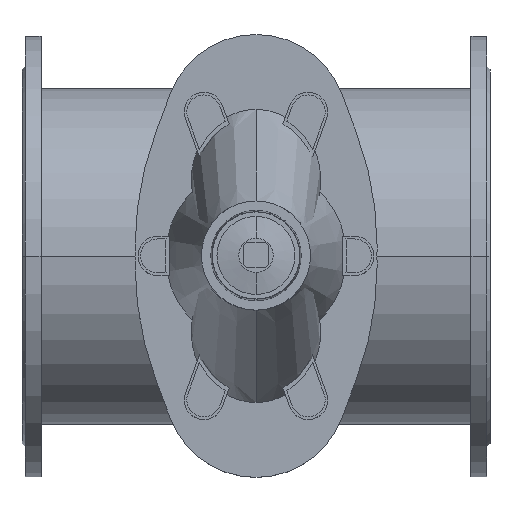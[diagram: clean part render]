
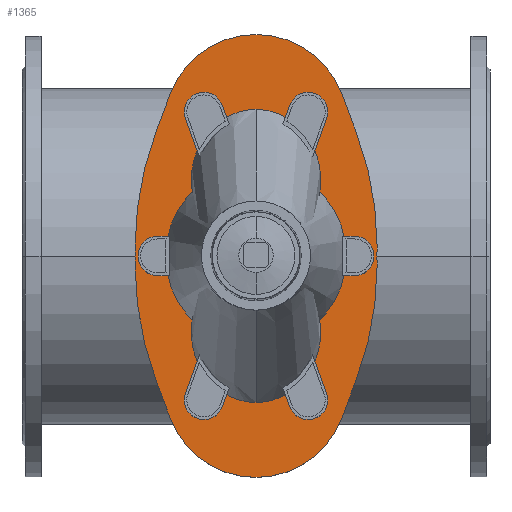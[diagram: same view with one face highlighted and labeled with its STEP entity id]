
A CAD part, top view. The second image highlights one B-rep face of the part: STEP entity #1365.
In plain terms, the highlighted planar face has unit normal (0, 0, 1).
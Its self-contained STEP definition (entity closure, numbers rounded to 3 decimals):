
#1365=ADVANCED_FACE('',(#2849),#2850,.T.);
#2849=FACE_OUTER_BOUND('',#4836,.T.);
#2850=PLANE('',#4837);
#4836=EDGE_LOOP('',(#7470,#7471,#7472,#7473,#7474,#7475,#7476,#7477,#7478,#7479,#7480,#7481,#7482,#7483));
#4837=AXIS2_PLACEMENT_3D('',#7484,#7485,#7486);
#7470=ORIENTED_EDGE('',*,*,#11487,.F.);
#7471=ORIENTED_EDGE('',*,*,#11488,.F.);
#7472=ORIENTED_EDGE('',*,*,#11489,.F.);
#7473=ORIENTED_EDGE('',*,*,#11490,.F.);
#7474=ORIENTED_EDGE('',*,*,#11491,.F.);
#7475=ORIENTED_EDGE('',*,*,#10931,.F.);
#7476=ORIENTED_EDGE('',*,*,#10945,.F.);
#7477=ORIENTED_EDGE('',*,*,#11324,.F.);
#7478=ORIENTED_EDGE('',*,*,#11492,.F.);
#7479=ORIENTED_EDGE('',*,*,#11493,.F.);
#7480=ORIENTED_EDGE('',*,*,#11494,.F.);
#7481=ORIENTED_EDGE('',*,*,#11495,.F.);
#7482=ORIENTED_EDGE('',*,*,#11496,.F.);
#7483=ORIENTED_EDGE('',*,*,#11480,.F.);
#7484=CARTESIAN_POINT('',(300.078,0.,504.0));
#7485=DIRECTION('',(0.0,0.0,1.0));
#7486=DIRECTION('',(1.0,0.0,0.0));
#10931=EDGE_CURVE('',#12953,#12955,#12956,.T.);
#10945=EDGE_CURVE('',#12975,#12953,#12977,.T.);
#11324=EDGE_CURVE('',#13615,#12975,#13616,.T.);
#11480=EDGE_CURVE('',#13846,#13844,#13848,.T.);
#11487=EDGE_CURVE('',#13859,#13846,#13860,.T.);
#11488=EDGE_CURVE('',#13861,#13859,#13862,.T.);
#11489=EDGE_CURVE('',#13863,#13861,#13864,.T.);
#11490=EDGE_CURVE('',#13865,#13863,#13866,.T.);
#11491=EDGE_CURVE('',#12955,#13865,#13867,.T.);
#11492=EDGE_CURVE('',#13868,#13615,#13869,.T.);
#11493=EDGE_CURVE('',#13870,#13868,#13871,.T.);
#11494=EDGE_CURVE('',#13872,#13870,#13873,.T.);
#11495=EDGE_CURVE('',#13874,#13872,#13875,.T.);
#11496=EDGE_CURVE('',#13844,#13874,#13876,.T.);
#12953=VERTEX_POINT('',#15698);
#12955=VERTEX_POINT('',#15701);
#12956=CIRCLE('',#15702,408.709);
#12975=VERTEX_POINT('',#15727);
#12977=CIRCLE('',#15730,408.709);
#13615=VERTEX_POINT('',#16547);
#13616=LINE('',#16548,#16549);
#13844=VERTEX_POINT('',#16836);
#13846=VERTEX_POINT('',#16839);
#13848=CIRCLE('',#16842,427.473);
#13859=VERTEX_POINT('',#16857);
#13860=LINE('',#16858,#16859);
#13861=VERTEX_POINT('',#16860);
#13862=CIRCLE('',#16861,117.466);
#13863=VERTEX_POINT('',#16862);
#13864=LINE('',#16863,#16864);
#13865=VERTEX_POINT('',#16865);
#13866=CIRCLE('',#16866,408.709);
#13867=CIRCLE('',#16867,408.709);
#13868=VERTEX_POINT('',#16868);
#13869=CIRCLE('',#16869,117.466);
#13870=VERTEX_POINT('',#16870);
#13871=LINE('',#16871,#16872);
#13872=VERTEX_POINT('',#16873);
#13873=CIRCLE('',#16874,427.473);
#13874=VERTEX_POINT('',#16875);
#13875=CIRCLE('',#16876,427.473);
#13876=CIRCLE('',#16877,427.473);
#15698=CARTESIAN_POINT('',(455.216,13.287,504.0));
#15701=CARTESIAN_POINT('',(455.,0.,504.0));
#15702=AXIS2_PLACEMENT_3D('',#18893,#18894,#18895);
#15727=CARTESIAN_POINT('',(428.882,157.621,504.0));
#15730=AXIS2_PLACEMENT_3D('',#18909,#18910,#18911);
#16547=CARTESIAN_POINT('',(409.91,207.883,504.0));
#16548=CARTESIAN_POINT('',(428.882,157.621,504.0));
#16549=VECTOR('',#19451,1.0);
#16836=CARTESIAN_POINT('',(144.881,-10.079,504.0));
#16839=CARTESIAN_POINT('',(172.378,-160.917,504.0));
#16842=AXIS2_PLACEMENT_3D('',#19684,#19685,#19686);
#16857=CARTESIAN_POINT('',(190.09,-207.883,504.0));
#16858=CARTESIAN_POINT('',(172.378,-160.917,504.0));
#16859=VECTOR('',#19691,1.0);
#16860=CARTESIAN_POINT('',(409.91,-207.883,504.0));
#16861=AXIS2_PLACEMENT_3D('',#19692,#19693,#19694);
#16862=CARTESIAN_POINT('',(428.882,-157.621,504.0));
#16863=CARTESIAN_POINT('',(409.91,-207.883,504.0));
#16864=VECTOR('',#19695,1.0);
#16865=CARTESIAN_POINT('',(455.216,-13.287,504.0));
#16866=AXIS2_PLACEMENT_3D('',#19696,#19697,#19698);
#16867=AXIS2_PLACEMENT_3D('',#19699,#19700,#19701);
#16868=CARTESIAN_POINT('',(190.09,207.883,504.0));
#16869=AXIS2_PLACEMENT_3D('',#19702,#19703,#19704);
#16870=CARTESIAN_POINT('',(172.378,160.917,504.0));
#16871=CARTESIAN_POINT('',(190.09,207.883,504.0));
#16872=VECTOR('',#19705,1.0);
#16873=CARTESIAN_POINT('',(144.881,10.079,504.0));
#16874=AXIS2_PLACEMENT_3D('',#19706,#19707,#19708);
#16875=CARTESIAN_POINT('',(145.,0.,504.0));
#16876=AXIS2_PLACEMENT_3D('',#19709,#19710,#19711);
#16877=AXIS2_PLACEMENT_3D('',#19712,#19713,#19714);
#18893=CARTESIAN_POINT('',(46.507,13.287,504.0));
#18894=DIRECTION('',(0.0,0.0,-1.0));
#18895=DIRECTION('',(1.0,0.0,0.0));
#18909=CARTESIAN_POINT('',(46.507,13.287,504.0));
#18910=DIRECTION('',(0.0,0.0,-1.0));
#18911=DIRECTION('',(1.0,0.0,0.0));
#19451=DIRECTION('',(0.353,-0.936,0.0));
#19684=CARTESIAN_POINT('',(572.355,-10.079,504.0));
#19685=DIRECTION('',(0.0,0.0,-1.0));
#19686=DIRECTION('',(1.0,0.0,0.0));
#19691=DIRECTION('',(-0.353,0.936,0.0));
#19692=CARTESIAN_POINT('',(300.,-166.434,504.0));
#19693=DIRECTION('',(0.0,0.0,-1.0));
#19694=DIRECTION('',(1.0,0.0,0.0));
#19695=DIRECTION('',(-0.353,-0.936,-0.0));
#19696=CARTESIAN_POINT('',(46.507,-13.287,504.0));
#19697=DIRECTION('',(0.0,0.0,-1.0));
#19698=DIRECTION('',(1.0,0.0,0.0));
#19699=CARTESIAN_POINT('',(46.507,-13.287,504.0));
#19700=DIRECTION('',(0.0,0.0,-1.0));
#19701=DIRECTION('',(1.0,0.0,0.0));
#19702=CARTESIAN_POINT('',(300.,166.434,504.0));
#19703=DIRECTION('',(0.0,0.0,-1.0));
#19704=DIRECTION('',(1.0,0.0,0.0));
#19705=DIRECTION('',(0.353,0.936,0.0));
#19706=CARTESIAN_POINT('',(572.355,10.079,504.0));
#19707=DIRECTION('',(0.0,0.0,-1.0));
#19708=DIRECTION('',(1.0,0.0,0.0));
#19709=CARTESIAN_POINT('',(572.355,10.079,504.0));
#19710=DIRECTION('',(0.0,0.0,-1.0));
#19711=DIRECTION('',(1.0,0.0,0.0));
#19712=CARTESIAN_POINT('',(572.355,-10.079,504.0));
#19713=DIRECTION('',(0.0,0.0,-1.0));
#19714=DIRECTION('',(1.0,0.0,0.0));
